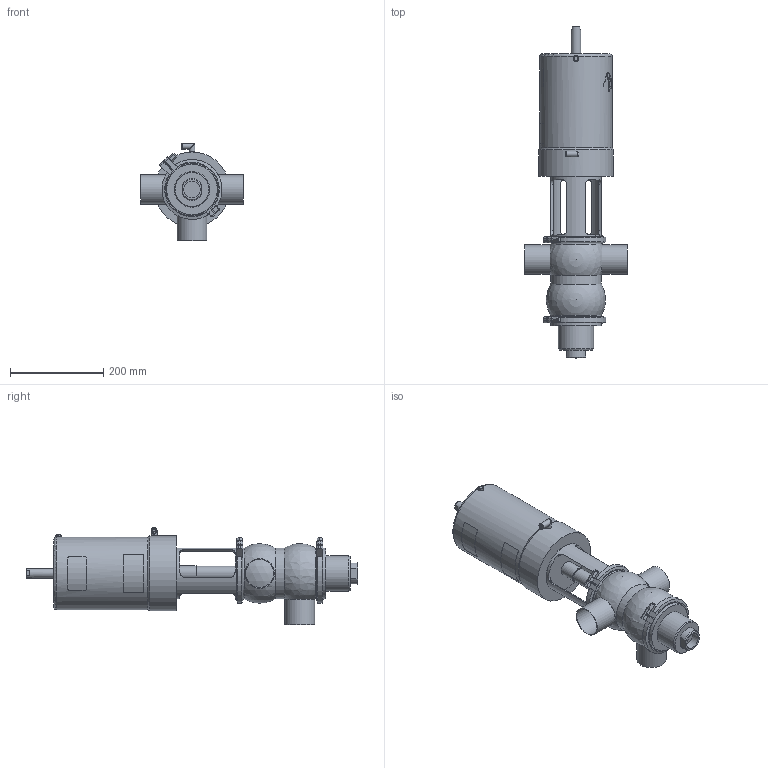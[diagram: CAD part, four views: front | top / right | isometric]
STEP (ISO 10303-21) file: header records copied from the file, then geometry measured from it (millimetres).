
FILE_DESCRIPTION (( 'STEP AP214' ), '1' );
FILE_NAME ('INNOVA S AB-90 W OD 2½_10.251.16.0001.STEP', '2024-08-20T12:11:14', ( '' ), ( '' ), 'SwSTEP 2.0', 'SolidWorks 2023', '' );
FILE_SCHEMA (( 'AUTOMOTIVE_DESIGN' ));
Length unit declared in the file: millimetre
Products named in the file (6): 10.251.15.0002_DN 2½"; 10.240.15.0001_DN 065; 10.250.15.0002_Type S T2; 10.251.15.0003_OD 2½"; 10.251.15.0001_OD 2½"; INNOVA S AB-90 W OD 2½_10.251.16.0001
Assembly tree (6 placements, depth 2):
  INNOVA S AB-90 W OD 2½_10.251.16.0001
    10.251.15.0001_OD 2½"
    10.250.15.0002_Type S T2
    10.251.15.0003_OD 2½"
    10.240.15.0001_DN 065  x2
    10.251.15.0002_DN 2½"
Bounding box: 220 x 712.8 x 209 mm (x, y, z)
Volume: 7871227.4 mm3; surface area: 504804.6 mm2
Topology: 6 solids, 6 shells, 423 faces, 1095 edges, 713 vertices
Faces by surface type: plane 201, cylinder 109, bspline 80, cone 27, sphere 5, torus 1
Full cylindrical faces by diameter (mm): 4.2 x2, 5 x1, 6 x1, 6.15 x1, 8 x4, 8.5 x1, 10.5 x2, 12.5 x6, 20 x1, 30.5 x1, 32 x1, 35 x1, 60.2 x3, 63.5 x3, 76 x1, 109 x5, 109.1 x1, 121 x4, 156 x1, 161 x1
Entity records: 22199 total; most frequent: CARTESIAN_POINT 12103, ORIENTED_EDGE 1714, DIRECTION 1343, EDGE_CURVE 857, VERTEX_POINT 589, AXIS2_PLACEMENT_3D 516, EDGE_LOOP 458, FACE_OUTER_BOUND 407
